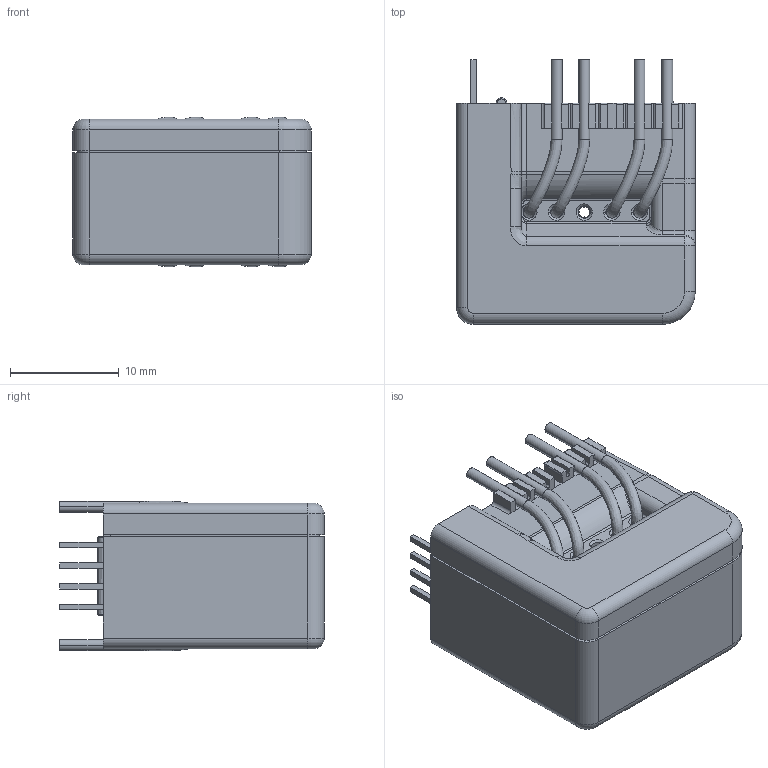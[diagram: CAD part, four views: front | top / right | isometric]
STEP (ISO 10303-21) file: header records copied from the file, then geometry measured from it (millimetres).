
FILE_DESCRIPTION(('Creo Elements/Direct Modeling STEP Export'),'2;1');
FILE_NAME('LESR_SP1_90.O8.25.001.0_20180215.stp','2018-02-15T15:17:42',(''),(''),'PTC Creo Elements/Direct Modeling STEP processor for AP214 (Solid Model)','PTC Creo Elements/Direct Modeling 19.0B 21-Mar-2015 (C) Parametric Technology GmbH','');
FILE_SCHEMA(('AUTOMOTIVE_DESIGN { 1 0 10303 214 1 1 1 1 }'));
Length unit declared in the file: millimetre
Products named in the file (2): BBox_Outline_H
Assembly tree (1 placements, depth 2):
  BBox_Outline_H
    BBox_Outline_H
Bounding box: 21.92 x 24.3 x 13.76 mm (x, y, z)
Volume: 5460.3 mm3; surface area: 2799 mm2
Topology: 1 solids, 1 shells, 648 faces, 1792 edges, 1153 vertices
Faces by surface type: plane 360, cylinder 183, bspline 55, cone 28, torus 16, extrusion 4, sphere 2
Entity records: 31000 total; most frequent: CARTESIAN_POINT 15465, ORIENTED_EDGE 3576, DIRECTION 2775, EDGE_CURVE 1788, VERTEX_POINT 1153, VECTOR 1129, LINE 1125, AXIS2_PLACEMENT_3D 823
